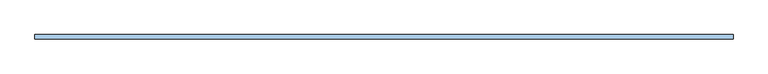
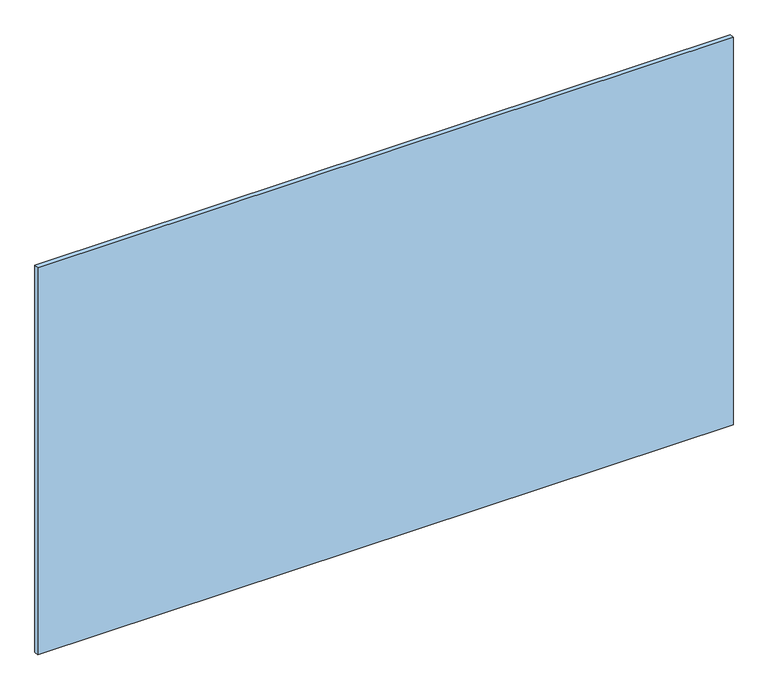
"""IFC4 building model written with IfcOpenShell, lengths in millimetres: window geometry, espejo biselado sin marco : ESP10-espejo biselado 170 x 100."""

import ifcopenshell
import ifcopenshell.guid

model = None  # the IFC model being written
_history = None  # IfcOwnerHistory: only IFC2X3 demands one
_inside = {}  # id of a spatial element -> (the spatial element, [elements in it])
_under = {}  # id of a project, library or spatial element -> (it, [spatial elements below it])
_declared = {}  # id of a project -> (the project, [libraries it declares])
_typed = {}  # id of a type object -> (the type object, [elements of that type])
_made_of = {}  # id of a material, layer set ... -> (it, [elements and type objects made of it])


def new_model(schema):
    """Start an empty IFC model of exactly this schema.

    Asked for "IFC4X3", IfcOpenShell would pick the latest addendum, in which some entities
    have other attributes; the version numbers below select the first issue.
    IFC2X3 requires an IfcOwnerHistory on every rooted entity: one is made here for all.
    """
    global model, _history
    if schema == "IFC4X3":
        model = ifcopenshell.file(schema_version=(4, 3, 0, 0))
    else:
        model = ifcopenshell.file(schema=schema)
    _inside.clear()
    _under.clear()
    _declared.clear()
    _typed.clear()
    _made_of.clear()
    _history = None
    if model.schema == "IFC2X3":
        org = make("IfcOrganization", Name="unknown")
        user = make(
            "IfcPersonAndOrganization",
            ThePerson=make("IfcPerson", FamilyName="unknown"),
            TheOrganization=org,
        )
        app = make(
            "IfcApplication",
            ApplicationDeveloper=org,
            Version="unknown",
            ApplicationFullName="unknown",
            ApplicationIdentifier="unknown",
        )
        _history = make(
            "IfcOwnerHistory",
            OwningUser=user,
            OwningApplication=app,
            ChangeAction="ADDED",
            CreationDate=0,
        )
    return model


def make(cls, **values):
    """One entity of the class cls with the attributes given. An attribute that is None is left unset."""
    return model.create_entity(
        cls, **{name: value for name, value in values.items() if value is not None}
    )


def rooted(cls, **values):
    """An entity with a GlobalId (a new one), such as an element, a storey or a relation."""
    return make(cls, GlobalId=ifcopenshell.guid.new(), OwnerHistory=_history, **values)


def si_unit(unit_type, name, prefix=None):
    """IfcSIUnit, for example si_unit("LENGTHUNIT", "METRE", prefix="MILLI")."""
    return make("IfcSIUnit", UnitType=unit_type, Prefix=prefix, Name=name)


def assignment(units):
    """IfcUnitAssignment: the units of a project."""
    return None if units is None else make("IfcUnitAssignment", Units=units)


def point(xyz):
    """IfcCartesianPoint."""
    return None if xyz is None else make("IfcCartesianPoint", Coordinates=xyz)


def direction(xyz):
    """IfcDirection."""
    return None if xyz is None else make("IfcDirection", DirectionRatios=xyz)


def frame(location, z_axis=None, x_axis=None):
    """IfcAxis2Placement3D, a coordinate frame: its origin and axes. An axis left out is left unset."""
    return make(
        "IfcAxis2Placement3D",
        Location=point(location),
        Axis=direction(z_axis),
        RefDirection=direction(x_axis),
    )


def origin():
    """The frame at (0, 0, 0) with its axes left unset."""
    return frame((0.0, 0.0, 0.0))


def origin_with_axes():
    """The frame at (0, 0, 0) with the z axis (0, 0, 1) and the x axis (1, 0, 0) written out."""
    return frame((0.0, 0.0, 0.0), z_axis=(0.0, 0.0, 1.0), x_axis=(1.0, 0.0, 0.0))


def place(relative_to, where):
    """IfcLocalPlacement: puts the frame where relative to a parent placement (None: the world)."""
    return make(
        "IfcLocalPlacement", PlacementRelTo=relative_to, RelativePlacement=where
    )


def context(
    kind, dimensions, precision=None, world=None, true_north=None, identifier=None
):
    """IfcGeometricRepresentationContext, for example the 3D "Model" context."""
    return make(
        "IfcGeometricRepresentationContext",
        ContextIdentifier=identifier,
        ContextType=kind,
        CoordinateSpaceDimension=dimensions,
        Precision=precision,
        WorldCoordinateSystem=world,
        TrueNorth=true_north,
    )


def project(units=None, contexts=None):
    """IfcProject with its units and contexts."""
    return rooted(
        "IfcProject",
        Name="project",
        RepresentationContexts=contexts,
        UnitsInContext=assignment(units),
    )


def spatial(cls, under=None, at=None, **own):
    """A site, building, storey or space (cls), placed at a placement, below another one or the project."""
    s = rooted(cls, ObjectPlacement=at, **own)
    if under is not None:
        _under.setdefault(under.id(), (under, []))[1].append(s)
    return s


def polyline(points):
    """IfcPolyline through the points."""
    return make("IfcPolyline", Points=[point(p) for p in points])


def outline(outer, holes=None, kind="AREA"):
    """IfcArbitraryClosedProfileDef: a profile drawn as a closed curve; with holes, ...WithVoids."""
    if holes is None:
        return make("IfcArbitraryClosedProfileDef", ProfileType=kind, OuterCurve=outer)
    return make(
        "IfcArbitraryProfileDefWithVoids",
        ProfileType=kind,
        OuterCurve=outer,
        InnerCurves=holes,
    )


def extrude(swept, where, along, depth):
    """IfcExtrudedAreaSolid: the profile swept, set in the frame where, extruded along a direction by depth."""
    return make(
        "IfcExtrudedAreaSolid",
        SweptArea=swept,
        Position=where,
        ExtrudedDirection=direction(along),
        Depth=depth,
    )


def shape(context_of_items, identifier, shape_type, items):
    """IfcShapeRepresentation: the items that make up one representation, for example the "Body"."""
    return make(
        "IfcShapeRepresentation",
        ContextOfItems=context_of_items,
        RepresentationIdentifier=identifier,
        RepresentationType=shape_type,
        Items=items,
    )


def source(mapping_origin, context_of_items, identifier, shape_type, items):
    """IfcRepresentationMap: a shape defined once, which mapped items show again and again."""
    return make(
        "IfcRepresentationMap",
        MappingOrigin=mapping_origin,
        MappedRepresentation=shape(context_of_items, identifier, shape_type, items),
    )


def transform(
    local_origin,
    x_axis=None,
    y_axis=None,
    z_axis=None,
    scale=None,
    scale2=None,
    scale3=None,
    uniform=True,
):
    """IfcCartesianTransformationOperator3D, or its non-uniform kind. x_axis, y_axis, z_axis: its Axis1, 2, 3."""
    if uniform:
        return make(
            "IfcCartesianTransformationOperator3D",
            Axis1=direction(x_axis),
            Axis2=direction(y_axis),
            LocalOrigin=point(local_origin),
            Scale=scale,
            Axis3=direction(z_axis),
        )
    return make(
        "IfcCartesianTransformationOperator3DnonUniform",
        Axis1=direction(x_axis),
        Axis2=direction(y_axis),
        LocalOrigin=point(local_origin),
        Scale=scale,
        Axis3=direction(z_axis),
        Scale2=scale2,
        Scale3=scale3,
    )


def mapped(mapping_source, mapping_target):
    """IfcMappedItem: shows the shape of a source again, moved by a transform."""
    return make(
        "IfcMappedItem", MappingSource=mapping_source, MappingTarget=mapping_target
    )


def made_of(thing, what):
    """Note that an element or type object is made of a material, layer set ...; save() writes the relation."""
    if what is not None:
        _made_of.setdefault(what.id(), (what, []))[1].append(thing)
    return thing


def element(
    cls,
    number,
    at=None,
    inside=None,
    cuts=None,
    type_object=None,
    material=None,
    context=None,
    identifier="Body",
    shape_type=None,
    held_by="IfcProductDefinitionShape",
    body=None,
    shapes=None,
    **own,
):
    """One element of the class cls, such as IfcWall. Its Tag is "e" and its number.

    at: its placement. inside: the storey or other place that contains it. cuts: it is an
    opening in that element (IfcRelVoidsElement). A single representation is given by context,
    identifier, shape_type and body (its items); several are given by shapes. held_by: the class
    of the entity that holds the representations. save() writes the other relations.
    """
    e = rooted(cls, Tag="e%d" % number, ObjectPlacement=at, **own)
    if body is not None:
        shapes = [shape(context, identifier, shape_type, body)]
    if shapes is not None:
        e.Representation = make(held_by, Representations=shapes)
    if inside is not None:
        _inside.setdefault(inside.id(), (inside, []))[1].append(e)
    if cuts is not None:
        rooted(
            "IfcRelVoidsElement", RelatingBuildingElement=cuts, RelatedOpeningElement=e
        )
    if type_object is not None:
        _typed.setdefault(type_object.id(), (type_object, []))[1].append(e)
    return made_of(e, material)


def aggregate(whole, parts):
    """IfcRelAggregates: a whole, such as a stair, and the parts it consists of."""
    return rooted("IfcRelAggregates", RelatingObject=whole, RelatedObjects=parts)


def save(model, path):
    """Write the relations noted so far, then the file.

    IfcRelAggregates (storeys below a building ...), IfcRelContainedInSpatialStructure (elements
    in a storey), IfcRelDefinesByType, IfcRelAssociatesMaterial and IfcRelDeclares: one each for
    every whole, place, type object, material and project.
    """
    for whole, parts in _under.values():
        aggregate(whole, parts)
    for where, things in _inside.values():
        rooted(
            "IfcRelContainedInSpatialStructure",
            RelatedElements=things,
            RelatingStructure=where,
        )
    for kind, things in _typed.values():
        rooted("IfcRelDefinesByType", RelatedObjects=things, RelatingType=kind)
    for what, things in _made_of.values():
        rooted("IfcRelAssociatesMaterial", RelatedObjects=things, RelatingMaterial=what)
    for by, libraries in _declared.values():
        rooted("IfcRelDeclares", RelatingContext=by, RelatedDefinitions=libraries)
    model.write(path)


def window_c55bceab(model_context):
    return source(origin(), model_context, "Body", "SweptSolid", [
        extrude(outline(polyline([(-850.0, 79.0), (-850.0, 90.0), (850.0, 90.0), (850.0, 79.0), (-850.0, 79.0)])), origin_with_axes(), (0.0, 0.0, 1.0), 1000.0),
    ])


if __name__ == "__main__":
    model = new_model("IFC4")
    model_context = context("Model", 3, world=origin())
    ifc_project = project(units=[si_unit("LENGTHUNIT", "METRE", prefix="MILLI")], contexts=[model_context])
    site = spatial("IfcSite", under=ifc_project)
    building = spatial("IfcBuilding", under=site)
    placement = place(None, origin())
    window_shape = window_c55bceab(model_context)
    element("IfcWindow", 1, ObjectType="espejo biselado sin marco : ESP10-espejo biselado 170 x 100", at=placement, inside=building, context=model_context, shape_type="MappedRepresentation", body=[
        mapped(window_shape, transform((0.0, 0.0, 0.0), x_axis=(1.0, 0.0, 0.0), y_axis=(0.0, 1.0, 0.0), z_axis=(0.0, 0.0, 1.0))),
    ])
    save(model, "model.ifc")
